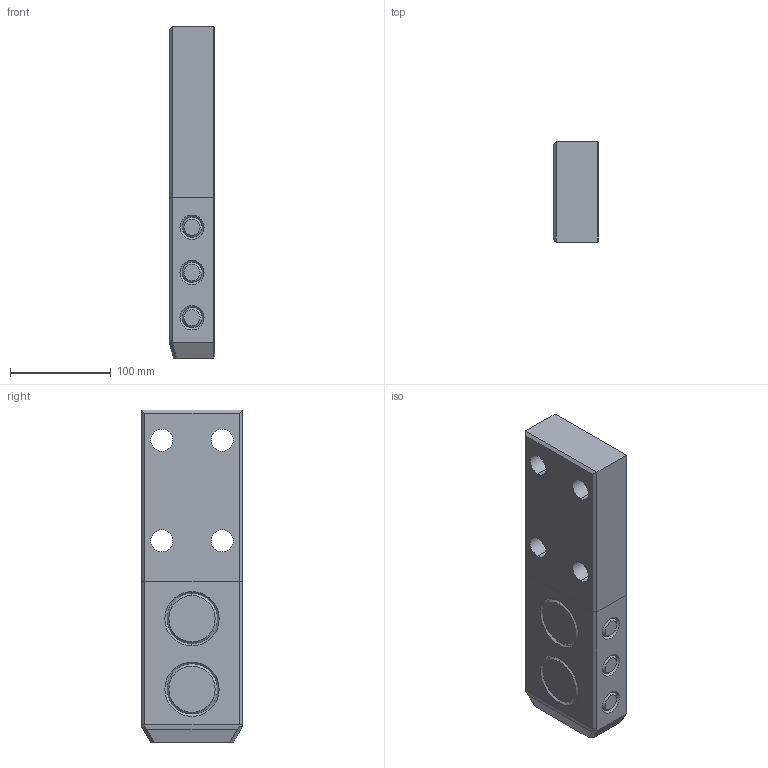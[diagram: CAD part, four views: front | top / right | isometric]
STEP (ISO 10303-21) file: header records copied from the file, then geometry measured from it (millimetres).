
FILE_DESCRIPTION((''),'2;1');
FILE_NAME('','2010-08-30T18:26:46+09:00',('misumi'),(''),'M/STEP i/f 1R2-14','CADmeister v5.1','');
FILE_SCHEMA(('AUTOMOTIVE_DESIGN'));
Length unit declared in the file: millimetre
Products named in the file (1): OG100-330
Bounding box: 45 x 100 x 330 mm (x, y, z)
Volume: 1398065.5 mm3; surface area: 113328.9 mm2
Topology: 1 solids, 1 shells, 81 faces, 178 edges, 108 vertices
Faces by surface type: plane 34, cone 32, cylinder 11, bspline 4
Entity records: 3988 total; most frequent: CARTESIAN_POINT 1376, DIRECTION 360, ORIENTED_EDGE 356, COLOUR_RGB 189, CURVE_STYLE 184, PRESENTATION_STYLE_ASSIGNMENT 183, OVER_RIDING_STYLED_ITEM 182, EDGE_CURVE 178
